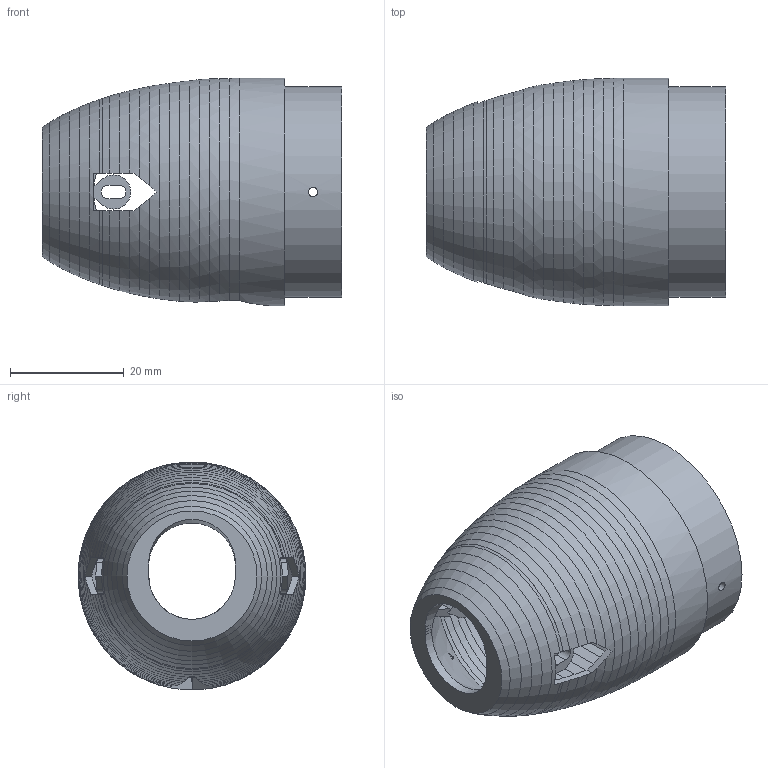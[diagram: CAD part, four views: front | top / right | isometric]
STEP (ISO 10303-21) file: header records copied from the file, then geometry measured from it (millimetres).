
FILE_DESCRIPTION(('Open CASCADE Model'),'2;1');
FILE_NAME('Open CASCADE Shape Model','2026-10-04T21:26:20',('Author'),( 'Open CASCADE'),'Open CASCADE STEP processor 7.9','Open CASCADE 7.9' ,'Unknown');
FILE_SCHEMA(('AUTOMOTIVE_DESIGN { 1 0 10303 214 1 1 1 1 }'));
Length unit declared in the file: millimetre
Products named in the file (1): Open CASCADE STEP translator 7.9 8
Bounding box: 52.5 x 40 x 40 mm (x, y, z)
Volume: 11147.4 mm3; surface area: 13059 mm2
Topology: 1 solids, 1 shells, 281 faces, 816 edges, 536 vertices
Faces by surface type: plane 152, cone 62, cylinder 35, bspline 32
Full cylindrical faces by diameter (mm): 1.6 x2, 33.8 x1, 37 x1, 40 x1
Entity records: 23104 total; most frequent: CARTESIAN_POINT 8273, DIRECTION 2436, ORIENTED_EDGE 1632, PCURVE 1632, DEFINITIONAL_REPRESENTATION 1632, LINE 1043, VECTOR 1043, EDGE_CURVE 816
